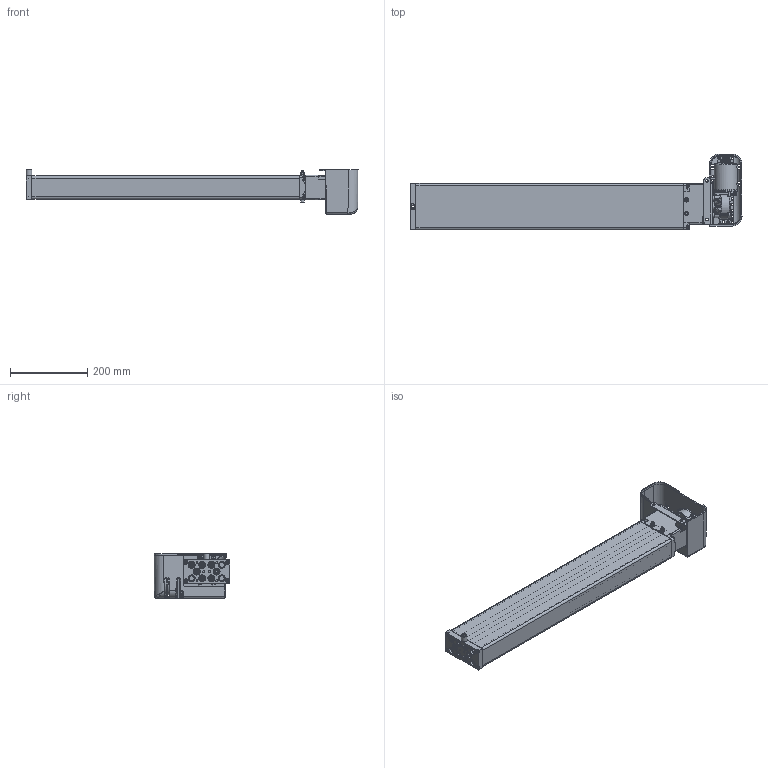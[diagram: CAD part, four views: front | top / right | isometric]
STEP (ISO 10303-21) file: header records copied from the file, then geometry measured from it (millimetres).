
FILE_DESCRIPTION(/* description */ ('Unknown'),/* implementation_level */ '2;1');
FILE_NAME(/* name */ '3X2.20265 Pumpe PB 7850 W mit Antrieb',/* time_stamp */ '2016-11-25T11:00:29+01:00',/* author */ ('Unknown'),/* organization */ ('Unknown'),/* preprocessor_version */ 'ST-DEVELOPER v16.7',/* originating_system */ 'DEX',/* authorisation */ $);
FILE_SCHEMA (('AUTOMOTIVE_DESIGN {1 0 10303 214 3 1 1}'));
Products named in the file (33): 102.20265; 115.10035; 125.00061; 115.00008; 142.00021; 125.00021; 142.00013; 125.00145; 115.00140; 126.00006; 122.00040; 119.00045; 126.00036; 127.00201; 127.00200; 127.00023; 124.00090; Getriebe; Ring; Schraube; Stator; Abdeckplatte; Antriebswelle; 128.00051; 123.00031; 142.00018; 142.00019; 142.00025; 142.00131; 123.00029; 142.00057; 142.00083; 142.00017
Assembly tree (54 placements, depth 3):
  102.20265
    115.10035  x7
      125.00061
      115.00008
      142.00021
      125.00021
    142.00013  x8
    125.00145
    115.00140
      126.00006
      122.00040
    119.00045
    126.00036
    127.00201
      127.00200
      127.00023
    124.00090
      Getriebe
      Ring
      Schraube
      Stator
      Abdeckplatte
      Antriebswelle
    128.00051
    123.00031
    142.00018  x2
    142.00019  x2
    142.00025  x2
    142.00131  x3
    123.00029
    142.00057
    142.00083  x4
    142.00017  x2
Bounding box: 858.45 x 196.04 x 115.45 mm (x, y, z)
Volume: 1376231.9 mm3; surface area: 903266.1 mm2
Topology: 61 solids, 63 shells, 4369 faces, 10949 edges, 6709 vertices
Faces by surface type: plane 1371, cylinder 1177, bspline 1040, cone 482, torus 202, sphere 97
Full cylindrical faces by diameter (mm): 2.5 x4, 3.2 x4, 3.5 x7, 3.9 x5, 4.1 x7, 4.134 x4, 4.2 x9, 4.4 x5, 4.5 x1, 4.917 x4, 5 x12, 5.5 x5, 5.8 x4, 6 x8, 6.4 x2, 6.8 x6, 6.917 x14, 7 x1, 8 x16, 8.5 x10, 9 x2, 9.5 x1, 9.8 x8, 10 x10, 10.3 x1, 10.32 x1, 10.4 x1, 10.5 x4, 11 x5, 12.5 x7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
Entity records: 165434 total; most frequent: CARTESIAN_POINT 80682, ORIENTED_EDGE 16058, DIRECTION 12091, EDGE_CURVE 8029, VERTEX_POINT 5273, AXIS2_PLACEMENT_3D 4680, FACE_BOUND 4022, EDGE_LOOP 4017
